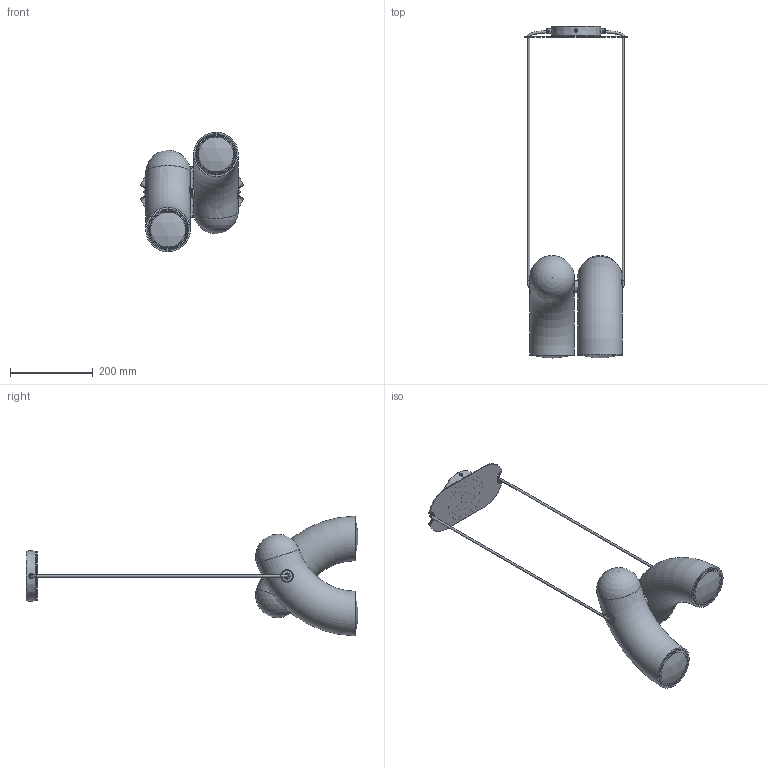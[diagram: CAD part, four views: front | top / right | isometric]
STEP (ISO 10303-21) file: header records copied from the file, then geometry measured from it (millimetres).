
FILE_DESCRIPTION(/* description */ (''),/* implementation_level */ '2;1');
FILE_NAME(/* name */ '/Users/guillaumeaube/Google Drive/00-Nouvelle Structure Drive/01-Produits/2020-Hyphen/02-Marketing/3D/HYPEXX_SIMPLE.step',/* time_stamp */ '2022-03-17T17:12:17-04:00',/* author */ (''),/* organization */ (''),/* preprocessor_version */ 'ST-DEVELOPER v18.1',/* originating_system */ 'Autodesk Translation Framework v10.13.0.1454',/* authorisation */ '');
FILE_SCHEMA (('AUTOMOTIVE_DESIGN { 1 0 10303 214 3 1 1 }'));
Length unit declared in the file: millimetre
Products named in the file (22): HYPEXX; A-0569STEL; A-0571; P-CNC0563BRAS; P-CNC0564BRAS; H-SCW0572STEL; A-0569STEL_1; P-WEL0449STEL; LIGHT BULB PLATE; WELDNUT SINGLE; WELDNUT DOUBLE; SEE TABLE; P-CNC0565BRAS; A-0573; P-SPN0574STEL; P-WEL0575STEL; P-CNC0377BRAS; P-CNC0377BRAS_1; 95862A190; H-SCW0577STEL; 12329B; W-18G0580-C03
Assembly tree (28 placements, depth 4):
  HYPEXX
    A-0569STEL
      P-WEL0449STEL
        LIGHT BULB PLATE
        WELDNUT SINGLE
        WELDNUT DOUBLE
      SEE TABLE
    P-CNC0565BRAS  x2
    A-0571
      P-CNC0563BRAS
      P-CNC0564BRAS
      H-SCW0572STEL
    A-0569STEL_1
      P-WEL0449STEL
        LIGHT BULB PLATE
        WELDNUT SINGLE
        WELDNUT DOUBLE
      SEE TABLE
    A-0573
      P-SPN0574STEL
      P-WEL0575STEL
      P-CNC0377BRAS
        95862A190
      P-CNC0377BRAS_1
        95862A190
      H-SCW0577STEL  x2
      12329B  x2
    W-18G0580-C03  x2
Bounding box: 247.74 x 803.92 x 290.11 mm (x, y, z)
Volume: 1074298 mm3; surface area: 648533.3 mm2
Topology: 33 solids, 35 shells, 679 faces, 1688 edges, 1101 vertices
Faces by surface type: cylinder 243, plane 179, bspline 94, cone 81, torus 66, sphere 16
Full cylindrical faces by diameter (mm): 3.048 x2, 3.134 x36, 3.416 x11, 4.166 x31, 4.5 x2, 5.118 x6, 5.5 x6, 5.6 x4, 7.541 x2, 8 x4, 8.179 x2, 8.566 x14, 10 x4, 12.7 x2, 22.636 x8, 23.6 x1, 24 x1, 25.209 x10, 25.4 x2, 28.575 x4, 30 x1, 30.48 x4, 95.352 x2
Entity records: 32840 total; most frequent: CARTESIAN_POINT 21984, ORIENTED_EDGE 2267, DIRECTION 1998, EDGE_CURVE 1134, AXIS2_PLACEMENT_3D 853, VERTEX_POINT 740, EDGE_LOOP 525, FACE_OUTER_BOUND 456
